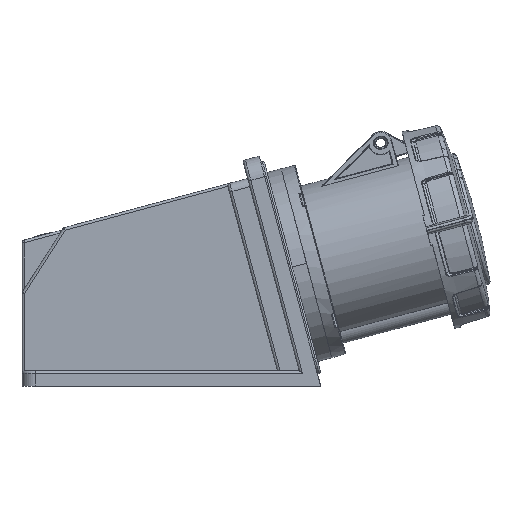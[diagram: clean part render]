
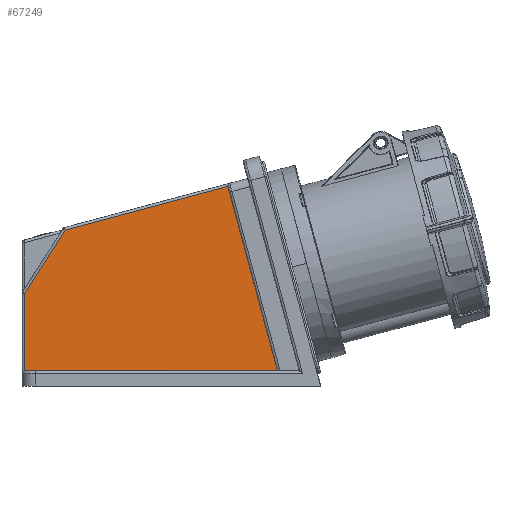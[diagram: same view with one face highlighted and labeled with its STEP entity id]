
A CAD part, left-side view. The second image highlights one B-rep face of the part: STEP entity #67249.
In plain terms, the highlighted planar face has unit normal (-1, 0, 0).
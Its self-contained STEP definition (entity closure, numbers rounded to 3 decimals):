
#54104 = EDGE_CURVE('',#54105,#54107,#54109,.T.);
#54105 = VERTEX_POINT('',#54106);
#54106 = CARTESIAN_POINT('',(-50.5,-62.795,9.));
#54107 = VERTEX_POINT('',#54108);
#54108 = CARTESIAN_POINT('',(-50.5,87.,9.));
#54109 = LINE('',#54110,#54111);
#54110 = CARTESIAN_POINT('',(-50.5,-62.795,9.));
#54111 = VECTOR('',#54112,1.);
#54112 = DIRECTION('',(0.,1.,0.));
#67161 = VERTEX_POINT('',#67162);
#67162 = CARTESIAN_POINT('',(-50.5,87.,54.952));
#67169 = EDGE_CURVE('',#67170,#67161,#67172,.T.);
#67170 = VERTEX_POINT('',#67171);
#67171 = CARTESIAN_POINT('',(-50.5,63.002,92.438));
#67172 = LINE('',#67173,#67174);
#67173 = CARTESIAN_POINT('',(-50.5,63.002,92.438));
#67174 = VECTOR('',#67175,1.);
#67175 = DIRECTION('',(0.,0.539,-0.842));
#67229 = VERTEX_POINT('',#67230);
#67230 = CARTESIAN_POINT('',(-50.5,-33.508,118.298));
#67239 = EDGE_CURVE('',#67170,#67229,#67240,.T.);
#67240 = LINE('',#67241,#67242);
#67241 = CARTESIAN_POINT('',(-50.5,63.002,92.438));
#67242 = VECTOR('',#67243,1.);
#67243 = DIRECTION('',(0.,-0.966,0.259));
#67249 = ADVANCED_FACE('',(#67250),#67267,.F.);
#67250 = FACE_BOUND('',#67251,.T.);
#67251 = EDGE_LOOP('',(#67252,#67253,#67259,#67260,#67266));
#67252 = ORIENTED_EDGE('',*,*,#67169,.T.);
#67253 = ORIENTED_EDGE('',*,*,#67254,.T.);
#67254 = EDGE_CURVE('',#67161,#54107,#67255,.T.);
#67255 = LINE('',#67256,#67257);
#67256 = CARTESIAN_POINT('',(-50.5,87.,54.952));
#67257 = VECTOR('',#67258,1.);
#67258 = DIRECTION('',(0.,0.,-1.));
#67259 = ORIENTED_EDGE('',*,*,#54104,.F.);
#67260 = ORIENTED_EDGE('',*,*,#67261,.F.);
#67261 = EDGE_CURVE('',#67229,#54105,#67262,.T.);
#67262 = LINE('',#67263,#67264);
#67263 = CARTESIAN_POINT('',(-50.5,-33.508,118.298));
#67264 = VECTOR('',#67265,1.);
#67265 = DIRECTION('',(0.,-0.259,-0.966));
#67266 = ORIENTED_EDGE('',*,*,#67239,.F.);
#67267 = PLANE('',#67268);
#67268 = AXIS2_PLACEMENT_3D('',#67269,#67270,#67271);
#67269 = CARTESIAN_POINT('',(-50.5,0.,0.));
#67270 = DIRECTION('',(1.,0.,0.));
#67271 = DIRECTION('',(0.,-1.,0.));
